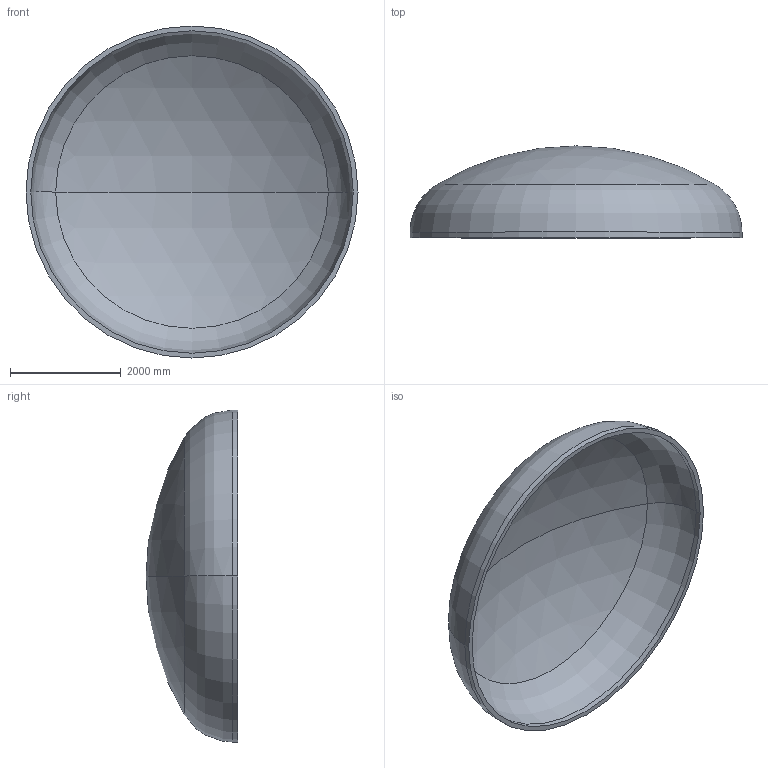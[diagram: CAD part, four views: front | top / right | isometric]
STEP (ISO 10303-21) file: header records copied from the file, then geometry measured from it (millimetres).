
FILE_DESCRIPTION (( 'STEP AP203' ), '1' );
FILE_NAME ('DIN 28013 Korbbogenform_-_Boden DIN 28013 - 6000 x 100 - I - s=86.step', '2016-07-04T10:38:23', ( '' ), ( '' ), 'SwSTEP 2.0', 'SolidWorks 2013', '' );
FILE_SCHEMA (( 'CONFIG_CONTROL_DESIGN' ));
Length unit declared in the file: millimetre
Products named in the file (1): DIN 28013 Korbbogenform_-_Boden DIN 28013 - 6000 x 100 - I - s=86
Bounding box: 6000 x 1660.42 x 6000 mm (x, y, z)
Volume: 3465042031.9 mm3; surface area: 82195659.3 mm2
Topology: 1 solids, 1 shells, 13 faces, 24 edges, 14 vertices
Faces by surface type: torus 4, cylinder 4, sphere 4, plane 1
Entity records: 407 total; most frequent: DIRECTION 72, CARTESIAN_POINT 52, ORIENTED_EDGE 48, AXIS2_PLACEMENT_3D 34, EDGE_CURVE 24, CIRCLE 20, EDGE_LOOP 14, VERTEX_POINT 14
